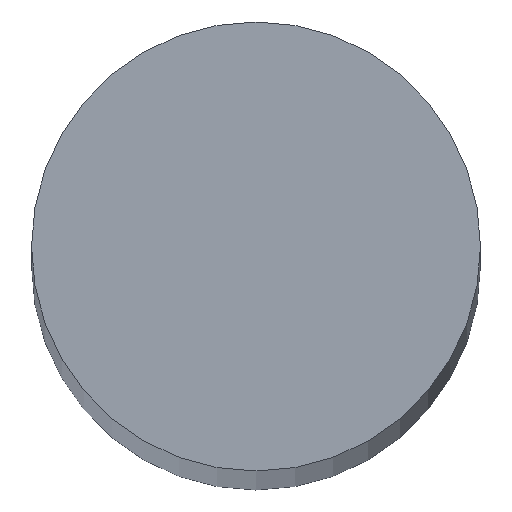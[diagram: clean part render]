
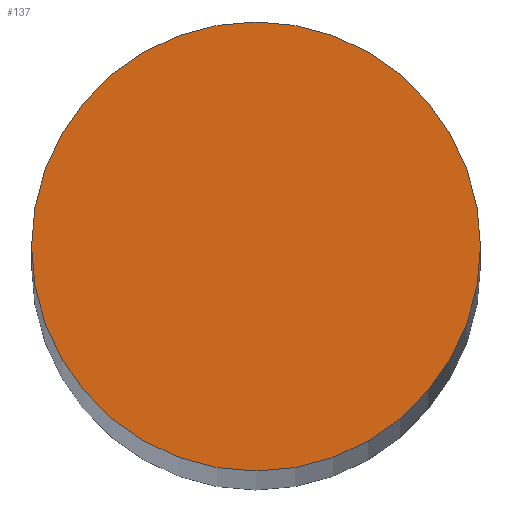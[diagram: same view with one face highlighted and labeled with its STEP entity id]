
A CAD part, top view. The second image highlights one B-rep face of the part: STEP entity #137.
In plain terms, the highlighted planar face has unit normal (0, 0, 1).
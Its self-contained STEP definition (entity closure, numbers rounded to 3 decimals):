
#3 = VERTEX_POINT ( 'NONE', #4 ) ;
#4 = CARTESIAN_POINT ( 'NONE',  ( 6., 0., 145.5 ) ) ;
#6 = CARTESIAN_POINT ( 'NONE',  ( -6., 0., 145.5 ) ) ;
#9 = VERTEX_POINT ( 'NONE', #6 ) ;
#26 = CARTESIAN_POINT ( 'NONE',  ( 0., 0., 145.5 ) ) ;
#31 = DIRECTION ( 'NONE',  ( 0., 0., 1. ) ) ;
#32 = DIRECTION ( 'NONE',  ( 1., 0., 0. ) ) ;
#33 = CARTESIAN_POINT ( 'NONE',  ( 0., 0., 145.5 ) ) ;
#35 = DIRECTION ( 'NONE',  ( 0., 0., 1. ) ) ;
#36 = DIRECTION ( 'NONE',  ( 1., 0., 0. ) ) ;
#39 = CARTESIAN_POINT ( 'NONE',  ( 0., 0., 145.5 ) ) ;
#40 = PLANE ( 'NONE',  #126 ) ;
#42 = DIRECTION ( 'NONE',  ( 0., 0., 1. ) ) ;
#43 = DIRECTION ( 'NONE',  ( 1., 0., 0. ) ) ;
#74 = EDGE_LOOP ( 'NONE', ( #82, #84 ) ) ;
#82 = ORIENTED_EDGE ( 'NONE', *, *, #131, .T. ) ;
#84 = ORIENTED_EDGE ( 'NONE', *, *, #128, .T. ) ;
#103 = CIRCLE ( 'NONE', #132, 6. ) ;
#105 = CIRCLE ( 'NONE', #135, 6. ) ;
#106 = FACE_OUTER_BOUND ( 'NONE', #74, .T. ) ;
#126 = AXIS2_PLACEMENT_3D ( 'NONE', #39, #42, #43 ) ;
#128 = EDGE_CURVE ( 'NONE', #3, #9, #103, .T. ) ;
#131 = EDGE_CURVE ( 'NONE', #9, #3, #105, .T. ) ;
#132 = AXIS2_PLACEMENT_3D ( 'NONE', #26, #31, #32 ) ;
#135 = AXIS2_PLACEMENT_3D ( 'NONE', #33, #35, #36 ) ;
#137 = ADVANCED_FACE ( 'NONE', ( #106 ), #40, .T. ) ;
